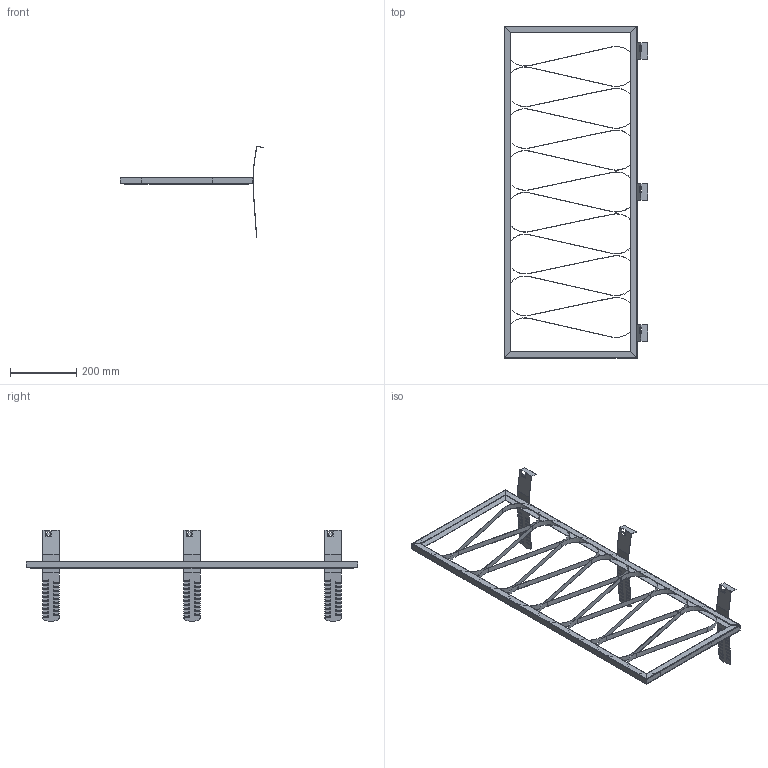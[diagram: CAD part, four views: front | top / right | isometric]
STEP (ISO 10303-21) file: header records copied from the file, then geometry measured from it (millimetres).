
FILE_DESCRIPTION(/* description */ (''),/* implementation_level */ '2;1');
FILE_NAME(/* name */ 'H:\Geberit-Teile\Export\388.300.00.1\stp\388300.stp',/* time_stamp */ '2015-04-15T13:32:39+02:00',/* author */ ('seihe2'),/* organization */ (''),/* preprocessor_version */ 'ST-DEVELOPER v15.2',/* originating_system */ 'Autodesk Inventor 2014',/* authorisation */ '');
FILE_SCHEMA (('AUTOMOTIVE_DESIGN { 1 0 10303 214 3 1 1 }'));
Length unit declared in the file: millimetre
Products named in the file (1): 388300
Bounding box: 431.77 x 1000 x 274.41 mm (x, y, z)
Volume: 232865.7 mm3; surface area: 621498.9 mm2
Topology: 4 solids, 4 shells, 748 faces, 2124 edges, 1376 vertices
Faces by surface type: plane 408, cylinder 340
Entity records: 25065 total; most frequent: DIRECTION 4286, CARTESIAN_POINT 4249, ORIENTED_EDGE 4248, EDGE_CURVE 2124, LINE 1460, VECTOR 1460, AXIS2_PLACEMENT_3D 1413, VERTEX_POINT 1376
